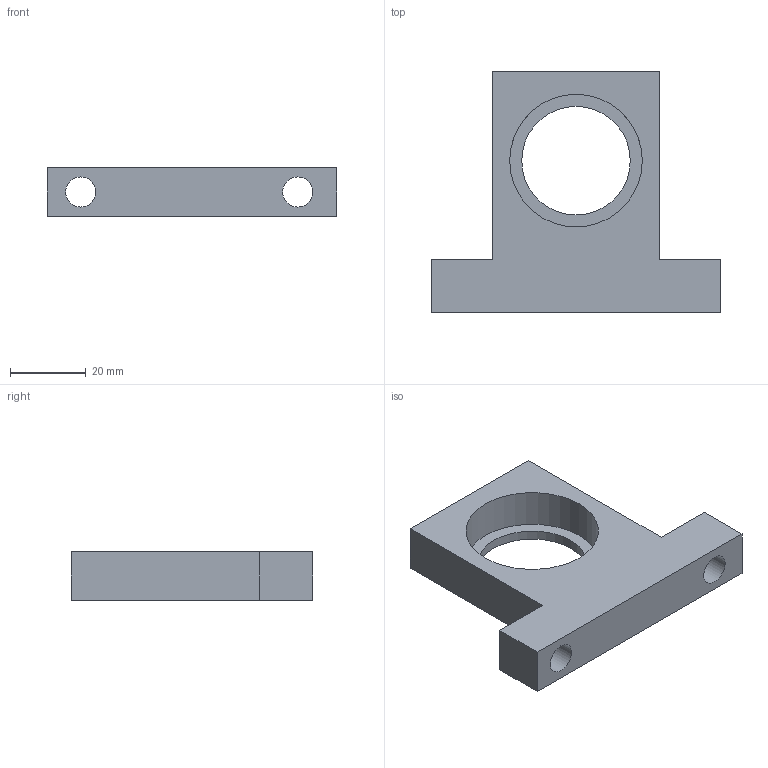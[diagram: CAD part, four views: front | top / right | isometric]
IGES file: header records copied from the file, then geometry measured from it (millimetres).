
Global section: file name: No Iges File Name specified; native system: AutoDesk Inventor R5.0; preprocessor: AutoDesk Inventor Iges Exporter R5.0; author: No Author specified; organization: No Organization specified; date: 20040116.181411; units: inch
Bounding box: 76.2 x 63.5 x 12.7 mm (x, y, z)
Surface area: 10598 mm2 (no closed solid volume)
Topology: 0 solids, 0 shells, 15 faces, 70 edges, 66 vertices
Faces by surface type: plane 10, bspline 5
